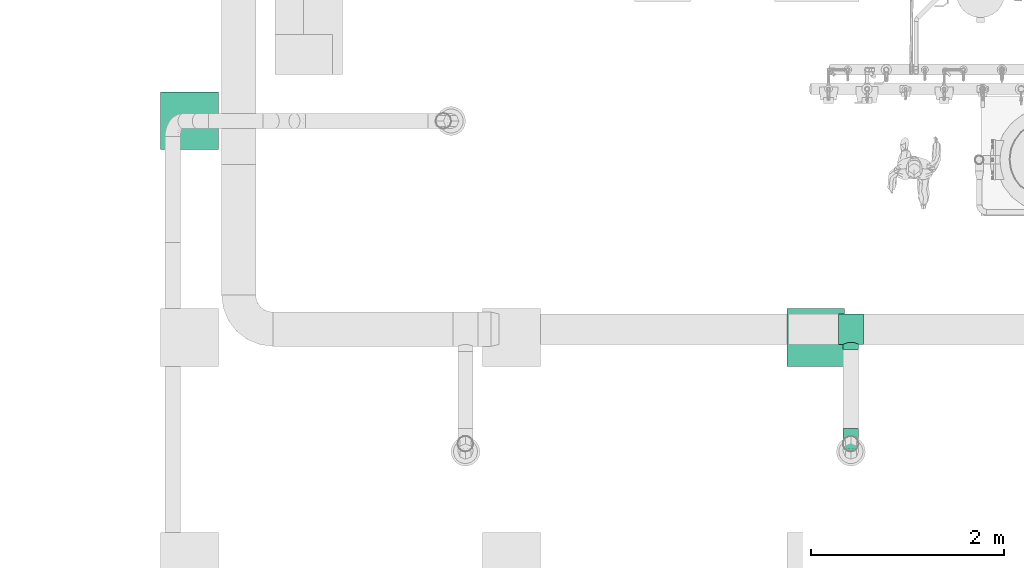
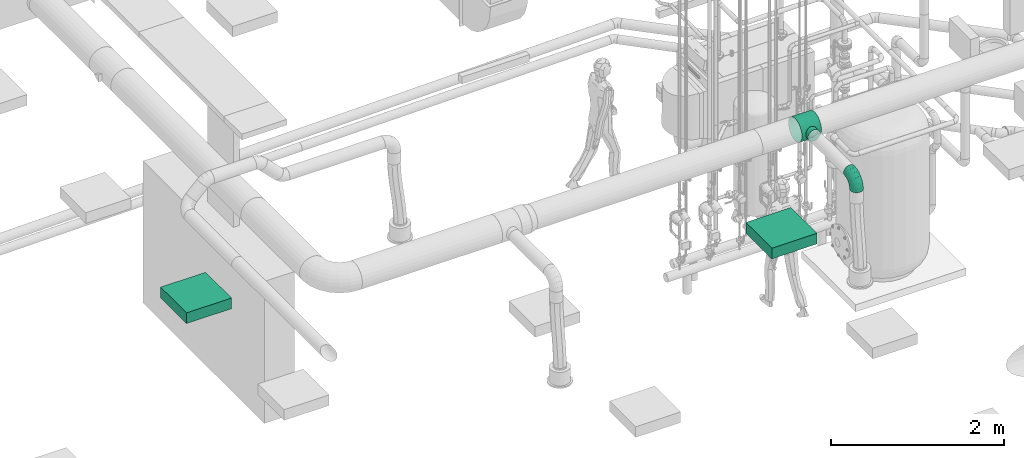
# One storey, part 76 of 374: 2 distribution elements, 2 flow fittings.
"""IFC2X3 building model written with IfcOpenShell, lengths in metres."""

from ifc_helpers import new_model, si_unit, direction, frame, frame_2d, origin, place, context, subcontext, project, spatial, rectangle, extrude, open_shell, surface_model, source, transform, mapped, element, save


model = new_model("IFC2X3")

# Units and contexts
model_context = context("Model", 3, precision=1e-05, world=origin(), true_north=direction((-0.4480736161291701, 0.8939966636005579)))
body_context = subcontext(model_context, "Body", "Model", "MODEL_VIEW")
ifc_project = project(units=[si_unit("LENGTHUNIT", "METRE"), si_unit("AREAUNIT", "SQUARE_METRE"), si_unit("VOLUMEUNIT", "CUBIC_METRE"), si_unit("PLANEANGLEUNIT", "RADIAN"), si_unit("THERMODYNAMICTEMPERATUREUNIT", "KELVIN"), si_unit("MASSUNIT", "GRAM", prefix="KILO"), si_unit("TIMEUNIT", "SECOND")], contexts=[model_context])

# Site, building, storey
site_placement = place(None, origin())
site = spatial("IfcSite", under=ifc_project, at=site_placement, Name="Site 1", CompositionType="ELEMENT")
building_placement = place(site_placement, origin())
building = spatial("IfcBuilding", under=site, at=building_placement, Name="Undefined", CompositionType="ELEMENT")
storey_placement = place(building_placement, origin())
storey = spatial("IfcBuildingStorey", under=building, at=storey_placement, Name="Rez de chauss\x8ee", CompositionType="ELEMENT", Elevation=0.0)

# Flow fittings
shared_shape_1 = source(origin(), body_context, "Body", "SurfaceModel", [
    surface_model("IfcFaceBasedSurfaceModel", [(0.06265257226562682, -8.8817842e-16, 0.0), (0.062296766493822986, 0.02088115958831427, -7.105427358e-15), (0.0003558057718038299, 0.020881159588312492, 7.105427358e-15), (0.0, 0.0, 0.0), (-0.059474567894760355, 0.022956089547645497, -0.015896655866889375), (-0.06051773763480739, 0.002098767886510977, -0.01607928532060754), (-0.11311701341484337, 0.02696454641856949, -0.04660663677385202), (-0.11477645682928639, 0.006153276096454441, -0.04714207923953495), (-0.15691588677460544, 0.0326333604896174, -0.09003710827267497), (-0.15907851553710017, 0.01188721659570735, -0.09107150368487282), (-0.18788636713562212, 0.03957621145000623, -0.14322835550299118), (-0.1904048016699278, 0.01890983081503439, -0.14487384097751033), (-0.2039178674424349, 0.04731995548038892, -0.20255548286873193), (-0.20662048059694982, 0.026742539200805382, -0.20488255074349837), (0.061253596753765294, 0.04103889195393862, -0.0053597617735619), (0.0013989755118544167, 0.04103889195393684, -0.005359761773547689), (-0.05641614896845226, 0.04304393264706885, -0.02072097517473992), (-0.10825177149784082, 0.04691737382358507, -0.050396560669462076), (-0.15057538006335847, 0.05239524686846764, -0.09236417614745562), (-0.18050269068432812, 0.05910424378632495, -0.14376379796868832), (-0.19599420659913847, 0.06658715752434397, -0.20109262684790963), (0.05959415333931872, 0.05909948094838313, -0.01571402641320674), (0.003058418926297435, 0.05909948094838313, -0.01571402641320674), (-0.05155090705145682, 0.06099334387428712, -0.030223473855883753), (-0.10051228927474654, 0.06465200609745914, -0.058253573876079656), (-0.1404890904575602, 0.0698261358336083, -0.09789412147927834), (-0.16875695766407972, 0.0761631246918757, -0.14644367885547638), (-0.18338948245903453, 0.08323111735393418, -0.2005936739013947), (0.057431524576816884, 0.07383212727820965, -0.030357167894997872), (0.005221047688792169, 0.07383212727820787, -0.03035716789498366), (-0.0452104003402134, 0.07558110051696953, -0.04375657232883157), (-0.09042599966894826, 0.07895985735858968, -0.06964223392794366), (-0.12734438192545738, 0.08373814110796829, -0.10625008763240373), (-0.15344962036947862, 0.08959031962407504, -0.15108536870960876), (-0.16696268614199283, 0.0961175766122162, -0.20109262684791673), (0.054913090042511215, 0.0842328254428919, -0.048291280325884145), (0.007739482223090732, 0.08423282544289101, -0.04829128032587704), (-0.037826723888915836, 0.08581307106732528, -0.06039801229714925), (-0.07868026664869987, 0.08886587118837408, -0.08378642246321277), (-0.11203704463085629, 0.09318318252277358, -0.11686262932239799), (-0.13562384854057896, 0.09847078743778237, -0.1573725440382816), (-0.14783327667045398, 0.10436834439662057, -0.20255548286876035), (0.05221047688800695, 0.0895927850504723, -0.06829418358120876), (0.010442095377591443, 0.08959278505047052, -0.06829418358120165), (-0.029903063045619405, 0.09099196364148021, -0.07901370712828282), (-0.06607554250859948, 0.09369496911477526, -0.0997222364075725), (-0.0956102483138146, 0.0975175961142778, -0.12900851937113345), (-0.11649443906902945, 0.10219933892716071, -0.16487674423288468), (-0.12730489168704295, 0.1074211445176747, -0.2048825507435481), (0.04950786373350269, 0.08954673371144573, -0.08900271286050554), (0.013144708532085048, 0.08954673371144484, -0.08900271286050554), (-0.02197940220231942, 0.09076484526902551, -0.09833502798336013), (-0.05347081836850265, 0.09311805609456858, -0.11636367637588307), (-0.0791834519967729, 0.09644599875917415, -0.14186003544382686), (-0.09736502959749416, 0.10052187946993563, -0.17308657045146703), (-0.10677650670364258, 0.1050679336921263, -0.20791524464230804), (0.04698942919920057, 0.08409780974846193, -0.10900561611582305), (0.015663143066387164, 0.08409780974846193, -0.10900561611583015), (-0.014595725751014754, 0.08514719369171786, -0.11704525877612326), (-0.0417250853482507, 0.0871744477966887, -0.13257665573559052), (-0.06387611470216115, 0.09004141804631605, -0.15454136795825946), (-0.07953925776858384, 0.09355272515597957, -0.1814425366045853), (-0.08764709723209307, 0.09746907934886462, -0.21144689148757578), (0.04482680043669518, 0.0736173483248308, -0.12693972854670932), (0.017825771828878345, 0.0736173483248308, -0.12693972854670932), (-0.008255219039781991, 0.07452184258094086, -0.13386932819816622), (-0.03163879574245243, 0.0762691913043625, -0.14725628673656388), (-0.050731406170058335, 0.07874031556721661, -0.1661883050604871), (-0.06423192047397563, 0.08176681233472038, -0.18937519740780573), (-0.07122030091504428, 0.08514243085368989, -0.21523681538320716), (0.04316735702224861, 0.058819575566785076, -0.14158287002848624), (0.019485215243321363, 0.058819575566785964, -0.14158287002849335), (-0.0033899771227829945, 0.05961289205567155, -0.14766070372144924), (-0.02389931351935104, 0.06114546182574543, -0.15940217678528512), (-0.04064511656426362, 0.06331284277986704, -0.17600712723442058), (-0.052486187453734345, 0.06596733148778, -0.19634395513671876), (-0.05861557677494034, 0.06892802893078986, -0.2190267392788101), (0.04212418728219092, 0.040712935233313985, -0.15193713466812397), (0.020528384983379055, 0.040712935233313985, -0.15193713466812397), (-0.0003315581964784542, 0.041436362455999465, -0.15747952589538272), (-0.019034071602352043, 0.04283391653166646, -0.16818660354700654), (-0.03430460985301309, 0.04481035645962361, -0.1833286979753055), (-0.04510251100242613, 0.047230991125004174, -0.20187390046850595), (-0.05069191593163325, 0.04993085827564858, -0.22255838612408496), (0.04176838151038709, 0.02053136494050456, -0.15729689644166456), (0.020884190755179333, 0.02053136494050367, -0.15729689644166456), (0.0007116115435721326, 0.021230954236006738, -0.16265665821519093), (-0.017374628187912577, 0.022582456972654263, -0.17301092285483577), (-0.03214198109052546, 0.024493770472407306, -0.1876540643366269), (-0.042584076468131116, 0.026834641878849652, -0.20558817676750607), (-0.04798930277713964, 0.02944554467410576, -0.22559108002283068), (0.04212418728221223, -0.000349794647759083, -0.15729689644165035), (0.020528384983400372, -0.000349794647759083, -0.15729689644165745), (-0.0003315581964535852, 0.00037363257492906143, -0.1628392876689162), (-0.019034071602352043, 0.0017711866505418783, -0.17354636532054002), (-0.03430460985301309, 0.0037476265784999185, -0.18868845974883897), (-0.04510251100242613, 0.00616826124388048, -0.20723366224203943), (-0.05069191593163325, 0.008868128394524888, -0.22791814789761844), (0.04316735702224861, -0.020507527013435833, -0.15193713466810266), (0.019485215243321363, -0.020507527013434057, -0.15193713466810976), (-0.0033899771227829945, -0.019714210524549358, -0.15801496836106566), (-0.02389931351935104, -0.01818164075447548, -0.16975644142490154), (-0.04064511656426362, -0.01601425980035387, -0.186361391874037), (-0.052486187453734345, -0.013359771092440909, -0.20669821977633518), (-0.05861557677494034, -0.010399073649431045, -0.22938100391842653), (0.04482680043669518, -0.03856811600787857, -0.1415828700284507), (0.017825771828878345, -0.03856811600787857, -0.1415828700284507), (-0.008255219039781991, -0.03766362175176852, -0.1485124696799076), (-0.03163879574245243, -0.03591627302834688, -0.16189942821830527), (-0.050731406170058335, -0.03344514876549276, -0.1808314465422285), (-0.06423192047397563, -0.030418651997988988, -0.20401833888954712), (-0.07122030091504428, -0.027043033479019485, -0.22987995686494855), (0.04698942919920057, -0.05330076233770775, -0.12693972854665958), (0.015663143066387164, -0.05330076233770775, -0.12693972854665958), (-0.014595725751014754, -0.05225137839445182, -0.1349793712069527), (-0.0417250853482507, -0.05022412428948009, -0.15051076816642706), (-0.06387611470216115, -0.047357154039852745, -0.172475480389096), (-0.07953925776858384, -0.043845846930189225, -0.19937664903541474), (-0.08764709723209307, -0.03992949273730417, -0.2293810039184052), (0.04950786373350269, -0.06370146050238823, -0.10900561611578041), (0.013144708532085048, -0.06370146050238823, -0.10900561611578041), (-0.02197940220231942, -0.06248334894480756, -0.11833793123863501), (-0.05347081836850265, -0.06013013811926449, -0.13636657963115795), (-0.0791834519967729, -0.05680219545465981, -0.16186293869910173), (-0.09736502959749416, -0.05272631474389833, -0.1930894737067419), (-0.10677650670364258, -0.04818026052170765, -0.2279181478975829), (0.05221047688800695, -0.06906142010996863, -0.08900271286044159), (0.010442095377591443, -0.06906142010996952, -0.08900271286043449), (-0.029903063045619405, -0.06766224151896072, -0.09972223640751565), (-0.06607554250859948, -0.06495923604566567, -0.12043076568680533), (-0.0956102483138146, -0.06113660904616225, -0.14971704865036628), (-0.11649443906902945, -0.05645486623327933, -0.1855852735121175), (-0.12730489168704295, -0.05123306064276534, -0.22559108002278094), (0.054913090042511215, -0.06901536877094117, -0.06829418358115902), (0.007739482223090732, -0.06901536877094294, -0.06829418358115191), (-0.037826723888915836, -0.06743512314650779, -0.08040091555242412), (-0.07868026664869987, -0.06438232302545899, -0.10378932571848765), (-0.11203704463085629, -0.06006501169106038, -0.13686553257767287), (-0.13562384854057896, -0.0547774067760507, -0.17737544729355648), (-0.14783327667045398, -0.04887984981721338, -0.22255838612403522), (0.057431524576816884, -0.06356644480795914, -0.0482912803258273), (0.005221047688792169, -0.06356644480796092, -0.04829128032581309), (-0.0452104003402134, -0.061817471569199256, -0.0616906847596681), (-0.09042599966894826, -0.05843871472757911, -0.0875763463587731), (-0.12734438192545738, -0.05366043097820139, -0.12418420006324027), (-0.15344962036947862, -0.04780825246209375, -0.1690194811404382), (-0.16696268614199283, -0.041280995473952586, -0.21902673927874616), (0.05959415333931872, -0.05308598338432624, -0.030357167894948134), (0.003058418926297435, -0.05308598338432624, -0.030357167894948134), (-0.05155090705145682, -0.05119212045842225, -0.04486661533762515), (-0.10051228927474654, -0.04753345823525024, -0.07289671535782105), (-0.1404890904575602, -0.04235932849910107, -0.11253726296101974), (-0.16875695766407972, -0.03602233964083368, -0.16108682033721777), (-0.18338948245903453, -0.02895434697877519, -0.2152368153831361), (0.061253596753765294, -0.03828821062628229, -0.015714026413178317), (0.0013989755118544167, -0.03828821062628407, -0.015714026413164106), (-0.05641614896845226, -0.03628316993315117, -0.031075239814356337), (-0.10825177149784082, -0.03240972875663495, -0.06075082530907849), (-0.15057538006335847, -0.026931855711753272, -0.10271844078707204), (-0.18050269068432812, -0.02022285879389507, -0.15411806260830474), (-0.19599420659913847, -0.012739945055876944, -0.21144689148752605), (0.062296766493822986, -0.020181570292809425, -0.005359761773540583), (0.0003558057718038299, -0.020181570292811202, -0.0053597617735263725), (-0.059474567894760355, -0.018106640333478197, -0.021256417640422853), (-0.11311701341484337, -0.014098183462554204, -0.051966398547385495), (-0.15691588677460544, -0.00842936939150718, -0.09539687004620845), (-0.18788636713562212, -0.0014865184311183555, -0.14858811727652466), (-0.2039178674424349, 0.006257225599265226, -0.2079152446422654)], [open_shell([[[0, 1, 2, 3]], [[3, 2, 4, 5]], [[5, 4, 6, 7]], [[7, 6, 8, 9]], [[9, 8, 10, 11]], [[11, 10, 12, 13]], [[1, 14, 15, 2]], [[2, 15, 16, 4]], [[4, 16, 17, 6]], [[6, 17, 18, 8]], [[8, 18, 19, 10]], [[10, 19, 20, 12]], [[14, 21, 22, 15]], [[15, 22, 23, 16]], [[16, 23, 24, 17]], [[17, 24, 25, 18]], [[18, 25, 26, 19]], [[19, 26, 27, 20]], [[21, 28, 29, 22]], [[22, 29, 30, 23]], [[23, 30, 31, 24]], [[24, 31, 32, 25]], [[25, 32, 33, 26]], [[26, 33, 34, 27]], [[28, 35, 36, 29]], [[29, 36, 37, 30]], [[30, 37, 38, 31]], [[31, 38, 39, 32]], [[32, 39, 40, 33]], [[33, 40, 41, 34]], [[35, 42, 43, 36]], [[36, 43, 44, 37]], [[37, 44, 45, 38]], [[38, 45, 46, 39]], [[39, 46, 47, 40]], [[40, 47, 48, 41]], [[42, 49, 50, 43]], [[43, 50, 51, 44]], [[44, 51, 52, 45]], [[45, 52, 53, 46]], [[46, 53, 54, 47]], [[47, 54, 55, 48]], [[49, 56, 57, 50]], [[50, 57, 58, 51]], [[51, 58, 59, 52]], [[52, 59, 60, 53]], [[53, 60, 61, 54]], [[54, 61, 62, 55]], [[56, 63, 64, 57]], [[57, 64, 65, 58]], [[58, 65, 66, 59]], [[59, 66, 67, 60]], [[60, 67, 68, 61]], [[61, 68, 69, 62]], [[63, 70, 71, 64]], [[64, 71, 72, 65]], [[65, 72, 73, 66]], [[66, 73, 74, 67]], [[67, 74, 75, 68]], [[68, 75, 76, 69]], [[70, 77, 78, 71]], [[71, 78, 79, 72]], [[72, 79, 80, 73]], [[73, 80, 81, 74]], [[74, 81, 82, 75]], [[75, 82, 83, 76]], [[77, 84, 85, 78]], [[78, 85, 86, 79]], [[79, 86, 87, 80]], [[80, 87, 88, 81]], [[81, 88, 89, 82]], [[82, 89, 90, 83]], [[84, 91, 92, 85]], [[85, 92, 93, 86]], [[86, 93, 94, 87]], [[87, 94, 95, 88]], [[88, 95, 96, 89]], [[89, 96, 97, 90]], [[91, 98, 99, 92]], [[92, 99, 100, 93]], [[93, 100, 101, 94]], [[94, 101, 102, 95]], [[95, 102, 103, 96]], [[96, 103, 104, 97]], [[98, 105, 106, 99]], [[99, 106, 107, 100]], [[100, 107, 108, 101]], [[101, 108, 109, 102]], [[102, 109, 110, 103]], [[103, 110, 111, 104]], [[105, 112, 113, 106]], [[106, 113, 114, 107]], [[107, 114, 115, 108]], [[108, 115, 116, 109]], [[109, 116, 117, 110]], [[110, 117, 118, 111]], [[112, 119, 120, 113]], [[113, 120, 121, 114]], [[114, 121, 122, 115]], [[115, 122, 123, 116]], [[116, 123, 124, 117]], [[117, 124, 125, 118]], [[119, 126, 127, 120]], [[120, 127, 128, 121]], [[121, 128, 129, 122]], [[122, 129, 130, 123]], [[123, 130, 131, 124]], [[124, 131, 132, 125]], [[126, 133, 134, 127]], [[127, 134, 135, 128]], [[128, 135, 136, 129]], [[129, 136, 137, 130]], [[130, 137, 138, 131]], [[131, 138, 139, 132]], [[133, 140, 141, 134]], [[134, 141, 142, 135]], [[135, 142, 143, 136]], [[136, 143, 144, 137]], [[137, 144, 145, 138]], [[138, 145, 146, 139]], [[140, 147, 148, 141]], [[141, 148, 149, 142]], [[142, 149, 150, 143]], [[143, 150, 151, 144]], [[144, 151, 152, 145]], [[145, 152, 153, 146]], [[147, 154, 155, 148]], [[148, 155, 156, 149]], [[149, 156, 157, 150]], [[150, 157, 158, 151]], [[151, 158, 159, 152]], [[152, 159, 160, 153]], [[154, 161, 162, 155]], [[155, 162, 163, 156]], [[156, 163, 164, 157]], [[157, 164, 165, 158]], [[158, 165, 166, 159]], [[159, 166, 167, 160]], [[161, 0, 3, 162]], [[162, 3, 5, 163]], [[163, 5, 7, 164]], [[164, 7, 9, 165]], [[165, 9, 11, 166]], [[166, 11, 13, 167]]])]),
])
flow_fitting_1_placement = place(storey_placement, origin())
element("IfcFlowFitting", 1, at=flow_fitting_1_placement, inside=storey, Name="Coude", ObjectType="Coude", context=body_context, shape_type="MappedRepresentation", body=[
    mapped(shared_shape_1, transform((52.29000370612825, 6.963176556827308, 3.7021165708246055), x_axis=(9.56658874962e-13, -0.13052619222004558, -0.9914448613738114), y_axis=(0.9915887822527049, 0.12832103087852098, -0.01689378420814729), z_axis=(0.12942830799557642, -0.983105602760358, 0.1294283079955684))),
])
shared_shape_2 = source(origin(), body_context, "Body", "SurfaceModel", [
    surface_model("IfcFaceBasedSurfaceModel", [(0.0, 0.04111575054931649, 0.0), (0.0, 0.0, 0.0), (0.2599999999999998, -7.105427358e-15, 0.0), (0.259999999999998, 0.041115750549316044, 0.0), (0.0, -0.03971476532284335, -0.010641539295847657), (0.259999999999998, -0.03971476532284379, -0.010641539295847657), (0.0, -0.0753220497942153, -0.0311994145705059), (0.259999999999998, -0.07532204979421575, -0.0311994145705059), (0.0, -0.10439527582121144, -0.060272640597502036), (0.259999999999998, -0.10439527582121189, -0.060272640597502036), (0.0, -0.12495315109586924, -0.09587992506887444), (0.259999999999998, -0.12495315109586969, -0.09587992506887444), (0.0, -0.13559469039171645, -0.13559469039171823), (0.259999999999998, -0.1355946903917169, -0.13559469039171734), (0.0, -0.135594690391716, -0.17671044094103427), (0.259999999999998, -0.13559469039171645, -0.1767104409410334), (0.0, -0.1249531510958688, -0.21642520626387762), (0.259999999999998, -0.12495315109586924, -0.21642520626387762), (0.0, -0.10439527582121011, -0.2520324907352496), (0.259999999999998, -0.10439527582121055, -0.2520324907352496), (0.0, -0.07532204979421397, -0.2811057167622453), (0.259999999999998, -0.07532204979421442, -0.2811057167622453), (0.0, -0.039714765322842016, -0.3016635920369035), (0.259999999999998, -0.03971476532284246, -0.3016635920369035), (0.0, 1.776356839e-15, -0.3123051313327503), (0.259999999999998, 1.33226763e-15, -0.3123051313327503), (0.0, 0.041115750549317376, -0.31230513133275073), (0.259999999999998, 0.04111575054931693, -0.31230513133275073), (0.0, 0.08083051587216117, -0.30166359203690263), (0.259999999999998, 0.08083051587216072, -0.30166359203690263), (0.0, 0.11643780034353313, -0.28110571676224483), (0.259999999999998, 0.11643780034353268, -0.28110571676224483), (0.0, 0.14551102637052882, -0.25203249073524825), (0.259999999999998, 0.14551102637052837, -0.25203249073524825), (0.0, 0.16606890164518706, -0.2164252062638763), (0.259999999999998, 0.16606890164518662, -0.21642520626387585), (0.0, 0.17671044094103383, -0.1767104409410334), (0.259999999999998, 0.1767104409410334, -0.1767104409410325), (0.0, 0.17671044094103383, -0.1355946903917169), (0.259999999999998, 0.1767104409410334, -0.13559469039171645), (0.0, 0.16606890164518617, -0.09587992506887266), (0.259999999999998, 0.16606890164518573, -0.09587992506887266), (0.0, 0.14551102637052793, -0.06027264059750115), (0.259999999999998, 0.14551102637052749, -0.06027264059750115), (0.0, 0.1164378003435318, -0.031199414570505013), (0.259999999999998, 0.11643780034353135, -0.031199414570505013), (0.0, 0.08083051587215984, -0.010641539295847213), (0.259999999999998, 0.08083051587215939, -0.010641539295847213), (0.21000000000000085, 0.1767104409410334, -0.1767104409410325), (0.2072740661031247, 0.1726525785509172, -0.19706040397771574), (0.2072740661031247, 0.22605868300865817, -0.20409145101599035), (0.21000000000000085, 0.22876129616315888, -0.18356306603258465), (0.19928203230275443, 0.16636954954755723, -0.21569419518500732), (0.19928203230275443, 0.22354024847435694, -0.2232208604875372), (0.18656854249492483, 0.15890731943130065, -0.2314232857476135), (0.18656854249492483, 0.22137761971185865, -0.23964765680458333), (0.1699999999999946, 0.15174813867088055, -0.2433039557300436), (0.1699999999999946, 0.21971817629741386, -0.2522523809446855), (0.15070552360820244, 0.14653802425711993, -0.25067902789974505), (0.15070552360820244, 0.21867500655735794, -0.2601760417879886), (0.12999999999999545, 0.14462474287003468, -0.25317659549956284), (0.12999999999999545, 0.218319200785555, -0.26287865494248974), (0.10929447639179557, 0.14653802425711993, -0.25067902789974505), (0.10929447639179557, 0.21867500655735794, -0.2601760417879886), (0.0899999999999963, 0.15174813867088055, -0.2433039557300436), (0.0899999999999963, 0.21971817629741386, -0.2522523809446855), (0.07343145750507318, 0.15890731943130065, -0.2314232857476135), (0.07343145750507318, 0.22137761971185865, -0.23964765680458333), (0.06071796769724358, 0.16636954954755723, -0.21569419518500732), (0.06071796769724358, 0.22354024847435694, -0.2232208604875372), (0.0527259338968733, 0.1726525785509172, -0.19706040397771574), (0.0527259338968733, 0.22605868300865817, -0.20409145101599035), (0.04999999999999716, 0.1767104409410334, -0.1767104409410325), (0.04999999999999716, 0.22876129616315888, -0.18356306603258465), (0.0527259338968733, 0.17805780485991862, -0.15600363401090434), (0.0527259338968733, 0.2314639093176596, -0.16303468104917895), (0.06071796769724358, 0.1768116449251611, -0.13637860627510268), (0.06071796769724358, 0.23398234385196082, -0.14390527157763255), (0.07343145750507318, 0.1736746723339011, -0.11925410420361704), (0.07343145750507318, 0.2361449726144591, -0.12747847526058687), (0.0899999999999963, 0.1698343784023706, -0.10592532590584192), (0.0899999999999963, 0.2378044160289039, -0.11487375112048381), (0.10929447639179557, 0.16671060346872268, -0.09745307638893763), (0.10929447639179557, 0.23884758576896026, -0.10695009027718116), (0.12999999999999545, 0.16550893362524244, -0.09454541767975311), (0.12999999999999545, 0.23920339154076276, -0.10424747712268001), (0.15070552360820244, 0.16671060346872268, -0.09745307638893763), (0.15070552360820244, 0.23884758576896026, -0.10695009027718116), (0.1699999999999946, 0.1698343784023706, -0.10592532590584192), (0.1699999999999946, 0.2378044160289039, -0.11487375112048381), (0.18656854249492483, 0.1736746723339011, -0.11925410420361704), (0.18656854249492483, 0.2361449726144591, -0.12747847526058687), (0.19928203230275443, 0.1768116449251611, -0.13637860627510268), (0.19928203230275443, 0.23398234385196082, -0.14390527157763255), (0.2072740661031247, 0.17805780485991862, -0.15600363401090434), (0.2072740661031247, 0.2314639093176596, -0.16303468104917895)], [open_shell([[[0, 1, 2, 3]], [[1, 4, 5, 2]], [[4, 6, 7, 5]], [[6, 8, 9, 7]], [[8, 10, 11, 9]], [[10, 12, 13, 11]], [[12, 14, 15, 13]], [[14, 16, 17, 15]], [[16, 18, 19, 17]], [[18, 20, 21, 19]], [[20, 22, 23, 21]], [[22, 24, 25, 23]], [[24, 26, 27, 25]], [[26, 28, 29, 27]], [[28, 30, 31, 29]], [[30, 32, 33, 31]], [[32, 34, 35, 33]], [[34, 36, 37, 35]], [[36, 38, 39, 37]], [[38, 40, 41, 39]], [[40, 42, 43, 41]], [[42, 44, 45, 43]], [[44, 46, 47, 45]], [[46, 0, 3, 47]], [[48, 49, 50, 51]], [[49, 52, 53, 50]], [[52, 54, 55, 53]], [[54, 56, 57, 55]], [[56, 58, 59, 57]], [[58, 60, 61, 59]], [[60, 62, 63, 61]], [[62, 64, 65, 63]], [[64, 66, 67, 65]], [[66, 68, 69, 67]], [[68, 70, 71, 69]], [[70, 72, 73, 71]], [[72, 74, 75, 73]], [[74, 76, 77, 75]], [[76, 78, 79, 77]], [[78, 80, 81, 79]], [[80, 82, 83, 81]], [[82, 84, 85, 83]], [[84, 86, 87, 85]], [[86, 88, 89, 87]], [[88, 90, 91, 89]], [[90, 92, 93, 91]], [[92, 94, 95, 93]], [[94, 48, 51, 95]]])]),
])
flow_fitting_2_placement = place(storey_placement, origin())
element("IfcFlowFitting", 2, at=flow_fitting_2_placement, inside=storey, Name="Pièce en té 90°", ObjectType="Pièce en té 90°", context=body_context, shape_type="MappedRepresentation", body=[
    mapped(shared_shape_2, transform((52.42000370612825, 8.265763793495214, 3.952133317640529), x_axis=(-1.0, 0.0, 0.0), y_axis=(7.266545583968e-12, -0.9914448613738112, 0.13052619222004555), z_axis=(0.0, 0.13052619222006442, 0.9914448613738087))),
])

# Distribution elements
distribution_element_1_placement = place(storey_placement, origin())
element("IfcDistributionElement", 3, at=distribution_element_1_placement, inside=storey, Name="Decken-Rechteckleuchte mit Rahmen AP", ObjectType="Decken-Rechteckleuchte mit Rahmen AP", context=body_context, shape_type="SweptSolid", body=[
    extrude(rectangle(XDim=0.6000000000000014, YDim=0.6000000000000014, at=frame_2d((3.552713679e-15, 0.0), x_axis=(0.0, 1.0))), frame((45.42533717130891, 10.3875, 2.5500000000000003), z_axis=(0.0, 0.0, -1.0), x_axis=(1.0, 0.0, 0.0)), (0.0, 0.0, 1.0), 0.15),
])
distribution_element_2_placement = place(storey_placement, origin())
element("IfcDistributionElement", 4, at=distribution_element_2_placement, inside=storey, Name="Decken-Rechteckleuchte mit Rahmen AP", ObjectType="Decken-Rechteckleuchte mit Rahmen AP", context=body_context, shape_type="SweptSolid", body=[
    extrude(rectangle(XDim=0.6000000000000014, YDim=0.6000000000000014, at=frame_2d((3.552713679e-15, 0.0), x_axis=(0.0, 1.0))), frame((51.9257634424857, 8.1375, 2.5500000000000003), z_axis=(0.0, 0.0, -1.0), x_axis=(1.0, 0.0, 0.0)), (0.0, 0.0, 1.0), 0.15),
])

save(model, "model.ifc")
